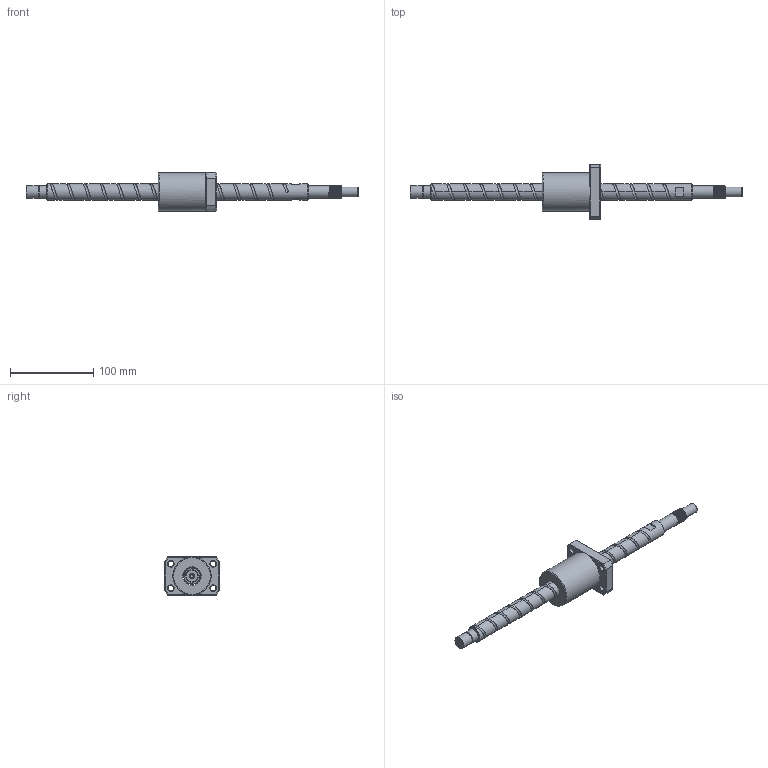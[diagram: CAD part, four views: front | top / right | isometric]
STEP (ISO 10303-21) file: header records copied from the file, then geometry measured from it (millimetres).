
FILE_DESCRIPTION (( 'STEP AP203' ), '1' );
FILE_NAME ('XSVR02020A1DGC5-399-P1.step', '2024-06-03T06:48:40', ( '' ), ( '' ), 'SwSTEP 2.0', 'SolidWorks 2022', '' );
FILE_SCHEMA (( 'CONFIG_CONTROL_DESIGN' ));
Length unit declared in the file: millimetre
Products named in the file (1): XSVR02020A1DGC5-399-P1
Bounding box: 399 x 66 x 46 mm (x, y, z)
Volume: 211723.4 mm3; surface area: 48092.1 mm2
Topology: 2 solids, 2 shells, 171 faces, 463 edges, 304 vertices
Faces by surface type: cylinder 73, plane 40, bspline 29, cone 20, torus 9
Full cylindrical faces by diameter (mm): 4 x1, 5 x15, 6.6 x4, 11 x4, 12 x1, 14.3 x1, 15 x16, 20 x15, 22.1 x1, 46 x1
Entity records: 20112 total; most frequent: CARTESIAN_POINT 17494, ORIENTED_EDGE 576, DIRECTION 407, EDGE_CURVE 288, VERTEX_POINT 206, EDGE_LOOP 184, AXIS2_PLACEMENT_3D 178, FACE_OUTER_BOUND 146
